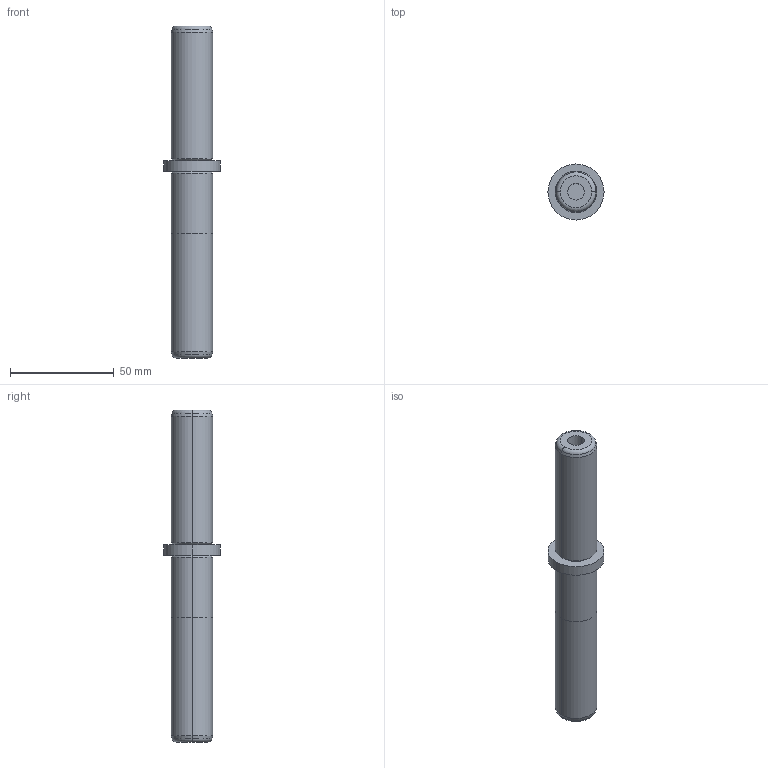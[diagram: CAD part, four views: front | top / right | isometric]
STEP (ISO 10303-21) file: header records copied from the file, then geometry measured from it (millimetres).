
FILE_DESCRIPTION(/* description */ (''),/* implementation_level */ '2;1');
FILE_NAME(/* name */ '3d_sgpwh20-90-70-b30_05312_r00.stp',/* time_stamp */ '2011-01-10T14:11:01+09:00',/* author */ ('MISUMI'),/* organization */ (''),/* preprocessor_version */ 'ST-DEVELOPER v11',/* originating_system */ 'UGS - NX 5.0',/* authorisation */ '');
FILE_SCHEMA (('CONFIG_CONTROL_DESIGN'));
Length unit declared in the file: millimetre
Products named in the file (1): 3d_sgpwh20-90-70-b30_05312_r00
Bounding box: 27 x 27 x 160 mm (x, y, z)
Volume: 48785.2 mm3; surface area: 12573.6 mm2
Topology: 1 solids, 1 shells, 30 faces, 58 edges, 34 vertices
Faces by surface type: cylinder 12, cone 8, plane 6, torus 4
Entity records: 854 total; most frequent: DIRECTION 158, CARTESIAN_POINT 123, ORIENTED_EDGE 116, AXIS2_PLACEMENT_3D 69, EDGE_CURVE 58, CIRCLE 38, EDGE_LOOP 34, VERTEX_POINT 34
